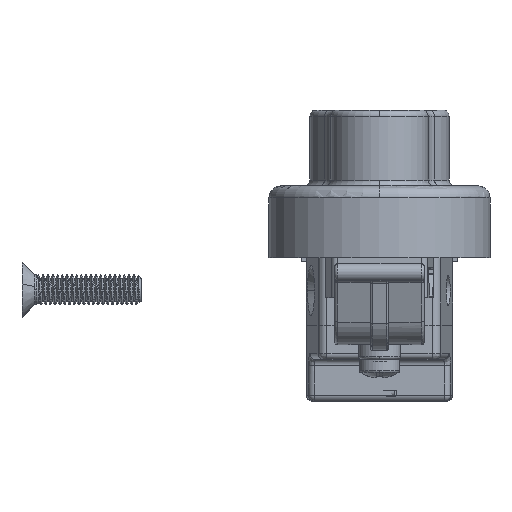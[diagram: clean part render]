
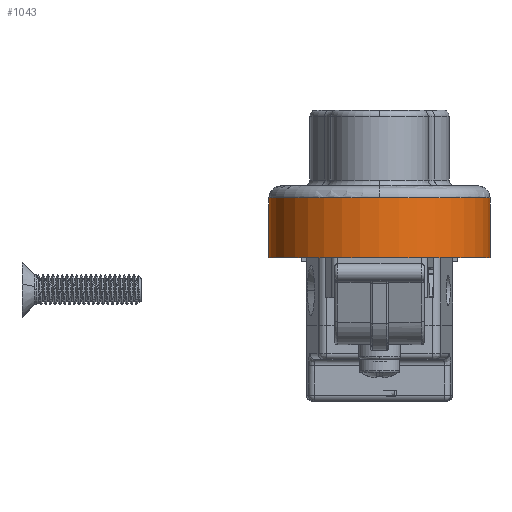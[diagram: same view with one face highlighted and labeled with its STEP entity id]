
A CAD part, front view. The second image highlights one B-rep face of the part: STEP entity #1043.
In plain terms, the highlighted cylindrical face has radius 18.5 mm (diameter 37 mm), a partial arc.
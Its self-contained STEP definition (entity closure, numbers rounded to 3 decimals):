
#1043=ADVANCED_FACE('',(#5096),#5097,.T.);
#5096=FACE_OUTER_BOUND('',#14814,.T.);
#5097=CYLINDRICAL_SURFACE('',#14815,18.5);
#14814=EDGE_LOOP('',(#57978,#57979,#57980,#57981,#57982));
#14815=AXIS2_PLACEMENT_3D('',#57983,#57984,#57985);
#57978=ORIENTED_EDGE('',*,*,#78832,.F.);
#57979=ORIENTED_EDGE('',*,*,#79555,.F.);
#57980=ORIENTED_EDGE('',*,*,#79133,.T.);
#57981=ORIENTED_EDGE('',*,*,#76905,.T.);
#57982=ORIENTED_EDGE('',*,*,#79556,.F.);
#57983=CARTESIAN_POINT('',(95.715,185.369,127.277));
#57984=DIRECTION('',(0.,0.,1.));
#57985=DIRECTION('',(1.0,0.,0.));
#76905=EDGE_CURVE('',#85506,#85510,#85512,.T.);
#78832=EDGE_CURVE('',#88719,#88721,#88722,.T.);
#79133=EDGE_CURVE('',#89174,#85506,#89175,.T.);
#79555=EDGE_CURVE('',#89174,#88719,#90001,.T.);
#79556=EDGE_CURVE('',#88721,#85510,#90002,.T.);
#85506=VERTEX_POINT('',#100023);
#85510=VERTEX_POINT('',#100171);
#85512=CIRCLE('',#100173,18.5);
#88719=VERTEX_POINT('',#108514);
#88721=VERTEX_POINT('',#108517);
#88722=CIRCLE('',#108518,18.5);
#89174=VERTEX_POINT('',#109723);
#89175=CIRCLE('',#109724,18.5);
#90001=LINE('',#110963,#110964);
#90002=LINE('',#110965,#110966);
#100023=CARTESIAN_POINT('',(95.715,166.869,132.277));
#100171=CARTESIAN_POINT('',(77.215,185.369,132.277));
#100173=AXIS2_PLACEMENT_3D('',#164806,#164807,#164808);
#108514=CARTESIAN_POINT('',(114.215,185.369,122.277));
#108517=CARTESIAN_POINT('',(77.215,185.369,122.277));
#108518=AXIS2_PLACEMENT_3D('',#167943,#167944,#167945);
#109723=CARTESIAN_POINT('',(114.215,185.369,132.277));
#109724=AXIS2_PLACEMENT_3D('',#168216,#168217,#168218);
#110963=CARTESIAN_POINT('',(114.215,185.369,132.277));
#110964=VECTOR('',#168656,10.0);
#110965=CARTESIAN_POINT('',(77.215,185.369,122.277));
#110966=VECTOR('',#168657,10.0);
#164806=CARTESIAN_POINT('',(95.715,185.369,132.277));
#164807=DIRECTION('',(0.,0.,-1.));
#164808=DIRECTION('',(-1.0,0.,0.));
#167943=CARTESIAN_POINT('',(95.715,185.369,122.277));
#167944=DIRECTION('',(0.,0.,-1.));
#167945=DIRECTION('',(-1.0,0.,0.));
#168216=CARTESIAN_POINT('',(95.715,185.369,132.277));
#168217=DIRECTION('',(0.,0.,-1.));
#168218=DIRECTION('',(-1.0,0.,0.));
#168656=DIRECTION('',(0.,0.,-1.));
#168657=DIRECTION('',(0.,0.,1.));
